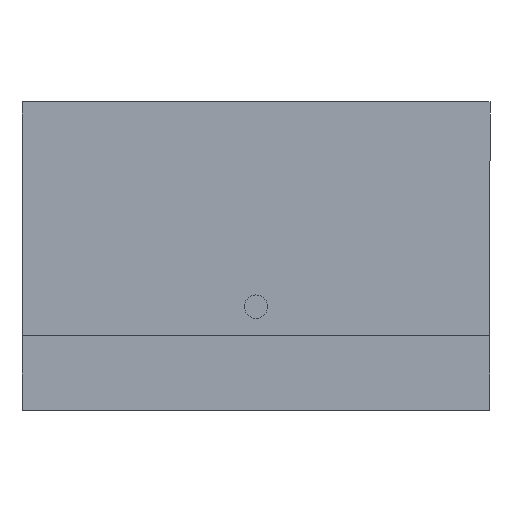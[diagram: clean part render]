
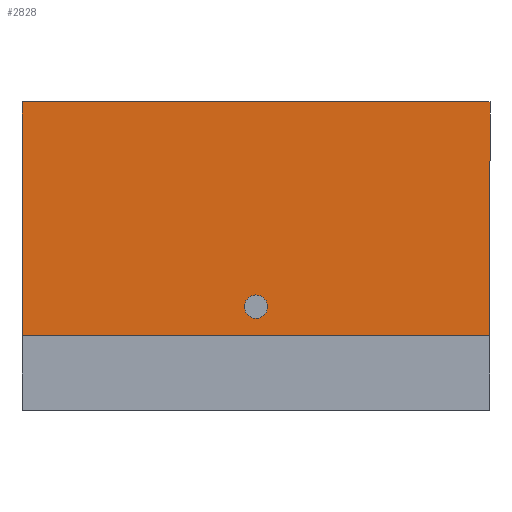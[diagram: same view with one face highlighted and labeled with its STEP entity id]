
A CAD part, left-side view. The second image highlights one B-rep face of the part: STEP entity #2828.
In plain terms, the highlighted planar face has unit normal (-1, 0, 0) as drawn and (1, 0, 0) by its records, which use the part's own axes.
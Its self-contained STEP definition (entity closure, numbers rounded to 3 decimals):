
#129=CIRCLE('',#3116,3.);
#739=ORIENTED_EDGE('',*,*,#1299,.T.);
#740=ORIENTED_EDGE('',*,*,#1291,.T.);
#741=ORIENTED_EDGE('',*,*,#1271,.T.);
#742=ORIENTED_EDGE('',*,*,#1294,.T.);
#743=ORIENTED_EDGE('',*,*,#1297,.T.);
#1271=EDGE_CURVE('',#1594,#1595,#1875,.T.);
#1291=EDGE_CURVE('',#1614,#1594,#1891,.T.);
#1294=EDGE_CURVE('',#1595,#1616,#1894,.T.);
#1297=EDGE_CURVE('',#1616,#1614,#1897,.T.);
#1299=EDGE_CURVE('',#1618,#1618,#129,.T.);
#1594=VERTEX_POINT('',#4550);
#1595=VERTEX_POINT('',#4551);
#1614=VERTEX_POINT('',#4603);
#1616=VERTEX_POINT('',#4609);
#1618=VERTEX_POINT('',#4619);
#1875=LINE('',#4549,#2161);
#1891=LINE('',#4602,#2177);
#1894=LINE('',#4608,#2180);
#1897=LINE('',#4614,#2183);
#2161=VECTOR('',#3695,1000.);
#2177=VECTOR('',#3713,1000.);
#2180=VECTOR('',#3718,1000.);
#2183=VECTOR('',#3723,1000.);
#2379=EDGE_LOOP('',(#739));
#2380=EDGE_LOOP('',(#740,#741,#742,#743));
#2551=FACE_BOUND('',#2379,.T.);
#2552=FACE_BOUND('',#2380,.T.);
#2690=PLANE('',#3115);
#2828=ADVANCED_FACE('',(#2551,#2552),#2690,.T.);
#3115=AXIS2_PLACEMENT_3D('',#4617,#3727,#3728);
#3116=AXIS2_PLACEMENT_3D('',#4618,#3729,#3730);
#3695=DIRECTION('',(0.,-1.,0.));
#3713=DIRECTION('',(0.,0.,1.));
#3718=DIRECTION('',(0.,0.,-1.));
#3723=DIRECTION('',(0.,1.,0.));
#3727=DIRECTION('',(1.,0.,0.));
#3728=DIRECTION('',(0.,0.,-1.));
#3729=DIRECTION('',(-1.,0.,0.));
#3730=DIRECTION('',(0.,0.,-1.));
#4549=CARTESIAN_POINT('',(0.,60.,30.));
#4550=CARTESIAN_POINT('',(0.,60.,30.));
#4551=CARTESIAN_POINT('',(0.,-60.,30.));
#4602=CARTESIAN_POINT('',(0.,60.,-30.));
#4603=CARTESIAN_POINT('',(0.,60.,-30.));
#4608=CARTESIAN_POINT('',(0.,-60.,30.));
#4609=CARTESIAN_POINT('',(0.,-60.,-30.));
#4614=CARTESIAN_POINT('',(0.,-60.,-30.));
#4617=CARTESIAN_POINT('',(0.,0.,0.));
#4618=CARTESIAN_POINT('',(0.,0.,22.5));
#4619=CARTESIAN_POINT('',(0.,0.,19.5));
